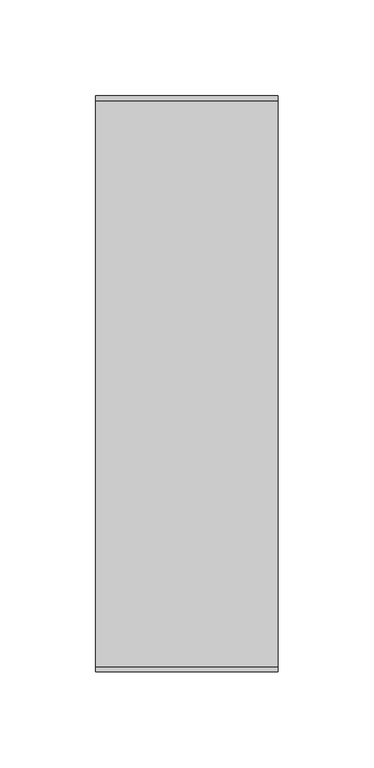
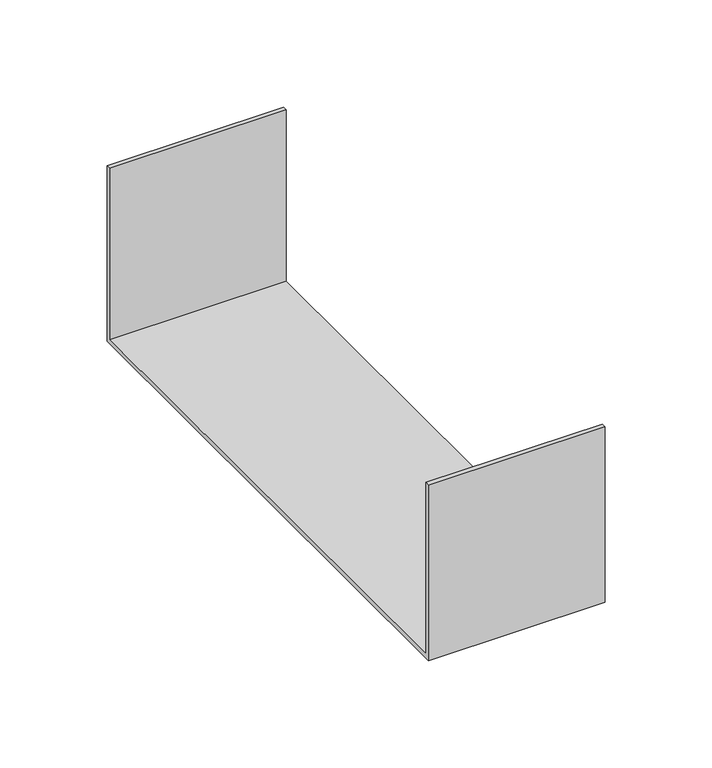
"""IFC4 building model written with IfcOpenShell, lengths in millimetres: cable carrier fitting geometry, BAKS_Reducer : RK(S/L/P)J_H100."""

from ifc_helpers import new_model, si_unit, frame, origin, place, context, project, spatial, polyline, outline, extrude, source, transform, mapped, element, save


def cable_carrier_fitting_d4f283aa(model_context):
    return source(origin(), model_context, "Body", "SweptSolid", [
        extrude(outline(polyline([(-150.0, -50.0), (-150.0, 50.0), (-147.46, 50.0), (-147.46, -47.46), (147.46, -47.46), (147.46, 50.0), (150.0, 50.0), (150.0, -50.0), (-150.0, -50.0)])), frame((0.0, 0.0, 0.0), z_axis=(1.0, 0.0, 0.0), x_axis=(0.0, 1.0, 0.0)), (0.0, 0.0, 1.0), 95.0),
    ])


if __name__ == "__main__":
    model = new_model("IFC4")
    model_context = context("Model", 3, world=origin())
    ifc_project = project(units=[si_unit("LENGTHUNIT", "METRE", prefix="MILLI")], contexts=[model_context])
    site = spatial("IfcSite", under=ifc_project)
    building = spatial("IfcBuilding", under=site)
    placement = place(None, origin())
    cable_carrier_fitting_shape = cable_carrier_fitting_d4f283aa(model_context)
    element("IfcCableCarrierFitting", 1, ObjectType="BAKS_Reducer : RK(S/L/P)J_H100", at=placement, inside=building, context=model_context, shape_type="MappedRepresentation", body=[
        mapped(cable_carrier_fitting_shape, transform((0.0, 0.0, 0.0), x_axis=(1.0, 0.0, 0.0), y_axis=(0.0, 1.0, 0.0), z_axis=(0.0, 0.0, 1.0))),
    ])
    save(model, "model.ifc")
